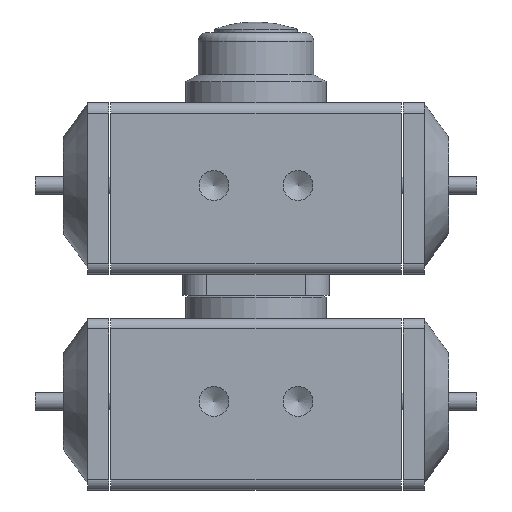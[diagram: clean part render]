
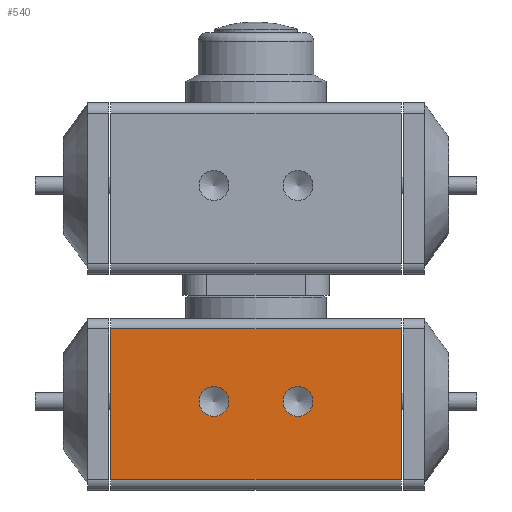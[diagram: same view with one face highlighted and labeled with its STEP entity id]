
A CAD part, front view. The second image highlights one B-rep face of the part: STEP entity #540.
In plain terms, the highlighted planar face has unit normal (0, -1, 0).
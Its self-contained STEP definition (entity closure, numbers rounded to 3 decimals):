
#540 = ADVANCED_FACE( '', ( #1259, #1260, #1261 ), #1262, .F. );
#1259 = FACE_BOUND( '', #2997, .T. );
#1260 = FACE_BOUND( '', #2998, .T. );
#1261 = FACE_OUTER_BOUND( '', #2999, .T. );
#1262 = PLANE( '', #3000 );
#2997 = EDGE_LOOP( '', ( #5505 ) );
#2998 = EDGE_LOOP( '', ( #5506 ) );
#2999 = EDGE_LOOP( '', ( #5507, #5508, #5509, #5510 ) );
#3000 = AXIS2_PLACEMENT_3D( '', #5511, #5512, #5513 );
#5505 = ORIENTED_EDGE( '', *, *, #7456, .T. );
#5506 = ORIENTED_EDGE( '', *, *, #7499, .T. );
#5507 = ORIENTED_EDGE( '', *, *, #7500, .T. );
#5508 = ORIENTED_EDGE( '', *, *, #7501, .T. );
#5509 = ORIENTED_EDGE( '', *, *, #7502, .F. );
#5510 = ORIENTED_EDGE( '', *, *, #7503, .T. );
#5511 = CARTESIAN_POINT( '', ( 41.5, -30., 23.7 ) );
#5512 = DIRECTION( '', ( 0., 1., 0. ) );
#5513 = DIRECTION( '', ( 0., 0., 1. ) );
#7456 = EDGE_CURVE( '', #8681, #8681, #8682, .T. );
#7499 = EDGE_CURVE( '', #8743, #8743, #8744, .T. );
#7500 = EDGE_CURVE( '', #8745, #8746, #8747, .T. );
#7501 = EDGE_CURVE( '', #8746, #8748, #8749, .F. );
#7502 = EDGE_CURVE( '', #8750, #8748, #8751, .T. );
#7503 = EDGE_CURVE( '', #8750, #8745, #8752, .T. );
#8681 = VERTEX_POINT( '', #11362 );
#8682 = CIRCLE( '', #11363, 4.283 );
#8743 = VERTEX_POINT( '', #11565 );
#8744 = CIRCLE( '', #11566, 4.283 );
#8745 = VERTEX_POINT( '', #11567 );
#8746 = VERTEX_POINT( '', #11568 );
#8747 = LINE( '', #11569, #11570 );
#8748 = VERTEX_POINT( '', #11571 );
#8749 = LINE( '', #11572, #11573 );
#8750 = VERTEX_POINT( '', #11574 );
#8751 = LINE( '', #11575, #11576 );
#8752 = LINE( '', #11577, #11578 );
#11362 = CARTESIAN_POINT( '', ( -12., -30., -4.283 ) );
#11363 = AXIS2_PLACEMENT_3D( '', #13747, #13748, #13749 );
#11565 = CARTESIAN_POINT( '', ( 12., -30., -4.283 ) );
#11566 = AXIS2_PLACEMENT_3D( '', #13761, #13762, #13763 );
#11567 = CARTESIAN_POINT( '', ( -41.5, -30., 20.7 ) );
#11568 = CARTESIAN_POINT( '', ( -41.5, -30., -22.3 ) );
#11569 = CARTESIAN_POINT( '', ( -41.5, -30., 23.7 ) );
#11570 = VECTOR( '', #13764, 1000. );
#11571 = CARTESIAN_POINT( '', ( 41.5, -30., -22.3 ) );
#11572 = CARTESIAN_POINT( '', ( 41.5, -30., -22.3 ) );
#11573 = VECTOR( '', #13765, 1000. );
#11574 = CARTESIAN_POINT( '', ( 41.5, -30., 20.7 ) );
#11575 = CARTESIAN_POINT( '', ( 41.5, -30., 23.7 ) );
#11576 = VECTOR( '', #13766, 1000. );
#11577 = CARTESIAN_POINT( '', ( 41.5, -30., 20.7 ) );
#11578 = VECTOR( '', #13767, 1000. );
#13747 = CARTESIAN_POINT( '', ( -12., -30., 0. ) );
#13748 = DIRECTION( '', ( 0., 1., 0. ) );
#13749 = DIRECTION( '', ( 0., 0., -1. ) );
#13761 = CARTESIAN_POINT( '', ( 12., -30., 0. ) );
#13762 = DIRECTION( '', ( 0., 1., 0. ) );
#13763 = DIRECTION( '', ( 0., 0., -1. ) );
#13764 = DIRECTION( '', ( 0., 0., -1. ) );
#13765 = DIRECTION( '', ( -1., 0., 0. ) );
#13766 = DIRECTION( '', ( 0., 0., -1. ) );
#13767 = DIRECTION( '', ( -1., 0., 0. ) );
